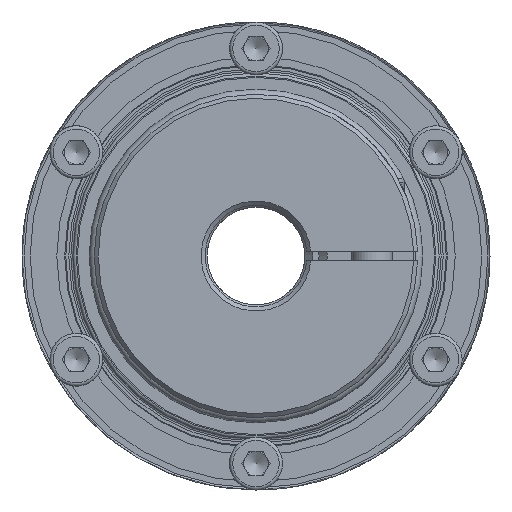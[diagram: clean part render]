
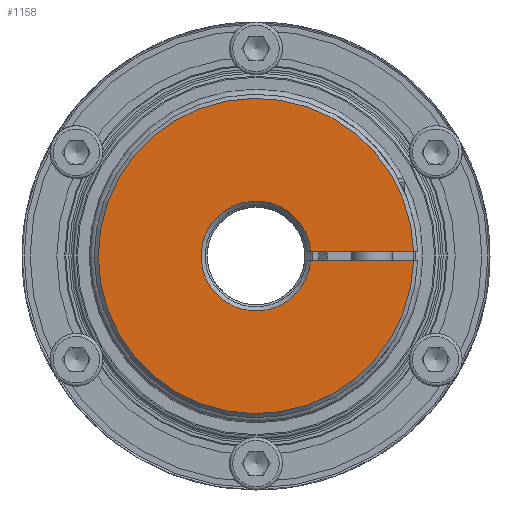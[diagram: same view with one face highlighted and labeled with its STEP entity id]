
A CAD part, left-side view. The second image highlights one B-rep face of the part: STEP entity #1158.
In plain terms, the highlighted planar face has unit normal (-1, 0, 0).
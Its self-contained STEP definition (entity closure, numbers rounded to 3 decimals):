
#1158 = ADVANCED_FACE( '', ( #2560 ), #2561, .T. );
#2560 = FACE_OUTER_BOUND( '', #4132, .T. );
#2561 = PLANE( '', #4133 );
#4132 = EDGE_LOOP( '', ( #7224, #7225, #7226, #7227 ) );
#4133 = AXIS2_PLACEMENT_3D( '', #7228, #7229, #7230 );
#7224 = ORIENTED_EDGE( '', *, *, #8991, .T. );
#7225 = ORIENTED_EDGE( '', *, *, #7862, .T. );
#7226 = ORIENTED_EDGE( '', *, *, #8559, .T. );
#7227 = ORIENTED_EDGE( '', *, *, #8992, .T. );
#7228 = CARTESIAN_POINT( '', ( -71.5, 0., 8. ) );
#7229 = DIRECTION( '', ( -1., 0., 0. ) );
#7230 = DIRECTION( '', ( 0., 0., 1. ) );
#7862 = EDGE_CURVE( '', #9227, #9231, #9233, .F. );
#8559 = EDGE_CURVE( '', #9231, #10336, #10337, .T. );
#8991 = EDGE_CURVE( '', #10890, #9227, #10891, .T. );
#8992 = EDGE_CURVE( '', #10336, #10890, #10892, .T. );
#9227 = VERTEX_POINT( '', #11303 );
#9231 = VERTEX_POINT( '', #11310 );
#9233 = CIRCLE( '', #11315, 13.5 );
#10336 = VERTEX_POINT( '', #14035 );
#10337 = LINE( '', #14036, #14037 );
#10890 = VERTEX_POINT( '', #15206 );
#10891 = LINE( '', #15207, #15208 );
#10892 = CIRCLE( '', #15209, 38.75 );
#11303 = CARTESIAN_POINT( '', ( -71.5, -13.447, -1.2 ) );
#11310 = CARTESIAN_POINT( '', ( -71.5, -13.447, 1.2 ) );
#11315 = AXIS2_PLACEMENT_3D( '', #15470, #15471, #15472 );
#14035 = CARTESIAN_POINT( '', ( -71.5, -38.731, 1.2 ) );
#14036 = CARTESIAN_POINT( '', ( -71.5, 2.648, 1.2 ) );
#14037 = VECTOR( '', #16341, 1000. );
#15206 = CARTESIAN_POINT( '', ( -71.5, -38.731, -1.2 ) );
#15207 = CARTESIAN_POINT( '', ( -71.5, -41.622, -1.2 ) );
#15208 = VECTOR( '', #16817, 1000. );
#15209 = AXIS2_PLACEMENT_3D( '', #16818, #16819, #16820 );
#15470 = CARTESIAN_POINT( '', ( -71.5, 0., 0. ) );
#15471 = DIRECTION( '', ( -1., 0., 0. ) );
#15472 = DIRECTION( '', ( 0., 0., 1. ) );
#16341 = DIRECTION( '', ( 0., -1., 0. ) );
#16817 = DIRECTION( '', ( 0., 1., 0. ) );
#16818 = CARTESIAN_POINT( '', ( -71.5, 0., 0. ) );
#16819 = DIRECTION( '', ( -1., 0., 0. ) );
#16820 = DIRECTION( '', ( 0., 0., 1. ) );
